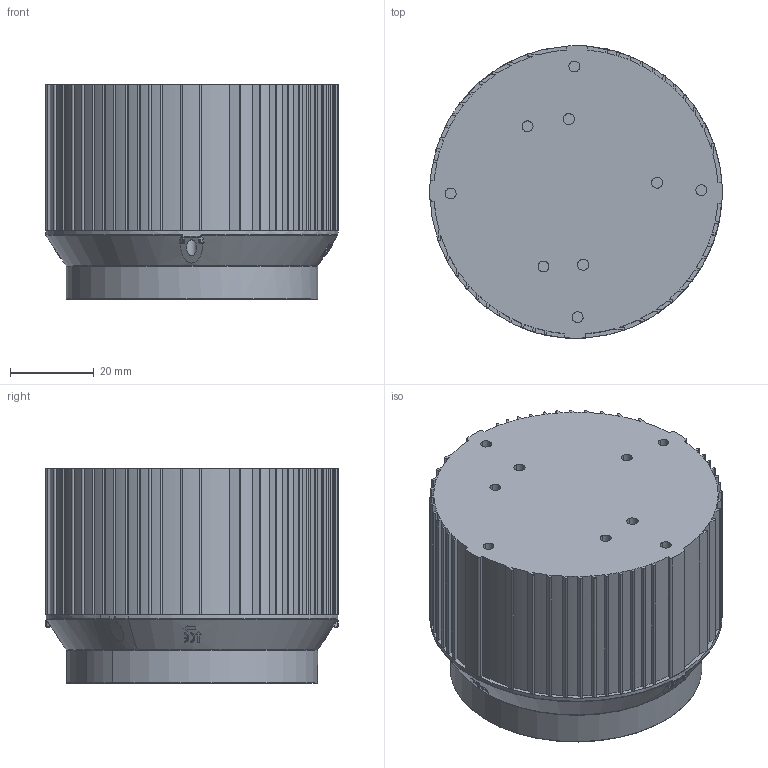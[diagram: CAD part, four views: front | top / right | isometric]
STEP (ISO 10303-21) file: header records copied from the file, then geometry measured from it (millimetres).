
FILE_DESCRIPTION((''),'2;1');
FILE_NAME('ASM0005_ASM_1_ASM','2015-02-09T',('95124'),(''),'PRO/ENGINEER BY PARAMETRIC TECHNOLOGY CORPORATION, 2005110','PRO/ENGINEER BY PARAMETRIC TECHNOLOGY CORPORATION, 2005110','');
FILE_SCHEMA(('CONFIG_CONTROL_DESIGN'));
Length unit declared in the file: millimetre
Products named in the file (3): FRAME; A212027120F_A212027130F; ASM0005_ASM_1_ASM
Assembly tree (2 placements, depth 2):
  ASM0005_ASM_1_ASM
    FRAME
    A212027120F_A212027130F
Bounding box: 70 x 70 x 51.4 mm (x, y, z)
Volume: 179440.1 mm3; surface area: 29392.4 mm2
Topology: 2 solids, 2 shells, 525 faces, 1490 edges, 981 vertices
Faces by surface type: plane 281, cylinder 155, torus 32, bspline 28, cone 15, sphere 9, extrusion 5
Entity records: 20515 total; most frequent: CARTESIAN_POINT 7291, ORIENTED_EDGE 2966, DIRECTION 2519, EDGE_CURVE 1483, VERTEX_POINT 981, AXIS2_PLACEMENT_3D 954, VECTOR 611, LINE 606
